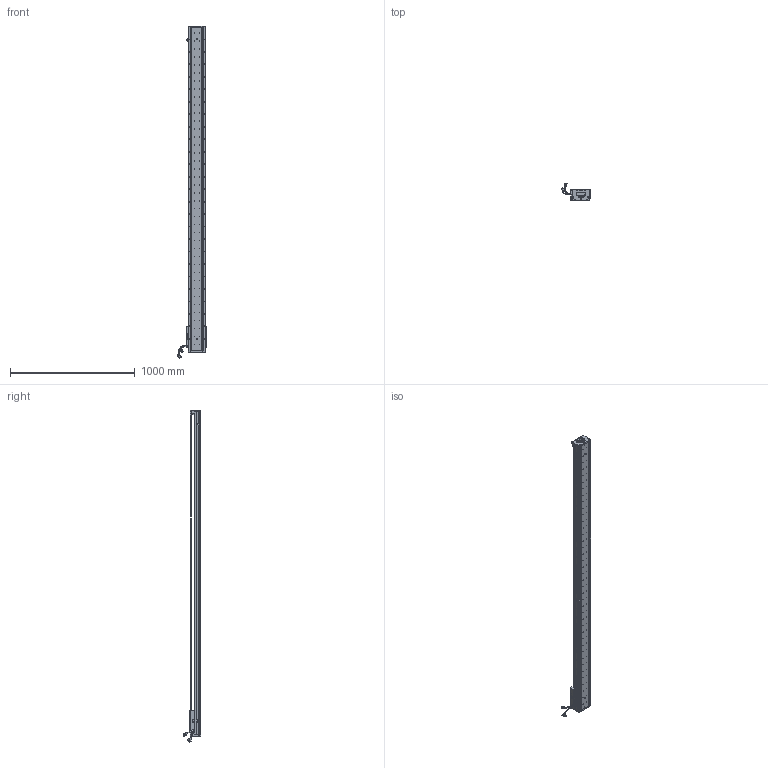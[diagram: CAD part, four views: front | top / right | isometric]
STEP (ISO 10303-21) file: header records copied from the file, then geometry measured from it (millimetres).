
FILE_DESCRIPTION (( 'STEP AP203' ), '1' );
FILE_NAME ('Z2-RY140D-1-L500-B-K.SLDASM_2350.step', '2021-05-17T07:49:25', ( '盈信电脑' ), ( '东莞市道滘镇水果街19号' ), 'SwSTEP 2.0', 'SolidWorks 2016', '' );
FILE_SCHEMA (( 'CONFIG_CONTROL_DESIGN' ));
Length unit declared in the file: millimetre
Products named in the file (36): COVER; Z2-RY140-L500詩湍100mm遵_2350; SCREW-M1.6-3; 榋妏寠巭燃_暯_M2_2; 覜茼ん672; 140蚥薯蝶輸; Z2-RY140D-1-L500-B-K.SLDASM_2350; HARNESS; 140-Z-臏賑輸盄裔(21遴); SCREW-M1.6-1; PBU_SHEET; 080黍杅芛假蚾釱21遴; Z-RY140詩湍奻揤裔; Z2-RY140圉猾敕臏賑輸(21遴); SCREW-M1.7-1; Z2-RY140-L500直线电机模组底座_2350; Z-RY140感应器672光电感应片; HOLDER0; SCREW-M1.7; SCALE-Part-2; HARNESS-Part-2; SCREW-M1.6-2; LABEL-Part-1; SCALE; 140雄赽晤鎢ん堤盄; COVER-Part-1; Z-140詩湍傷裔啣; SCALE-Part-1; Z-RY140詩湍狟揤裔; PSLH080_PSLF2; SEAL-Part-1; SCREW-M1.6; HARNESS-Part-1; SEAL; SHIELDPLATE; LABEL
Assembly tree (41 placements, depth 4):
  Z2-RY140D-1-L500-B-K.SLDASM_2350
    Z2-RY140-L500直线电机模组底座_2350
    Z-RY140感应器672光电感应片
    Z2-RY140圉猾敕臏賑輸(21遴)
    覜茼ん672  x3
    Z2-RY140-L500詩湍100mm遵_2350
    PSLH080_PSLF2
      SCALE
        SCALE-Part-1
        SCALE-Part-2
      HARNESS
        HARNESS-Part-1
        HARNESS-Part-2
      LABEL
        LABEL-Part-1
      COVER
        COVER-Part-1
      SEAL
        SEAL-Part-1
      榋妏寠巭燃_暯_M2_2
      SHIELDPLATE
      SCREW-M1.7
      SCREW-M1.7-1
      PBU_SHEET
      SCREW-M1.6
      SCREW-M1.6-1
      SCREW-M1.6-2
      SCREW-M1.6-3
      HOLDER0
    080黍杅芛假蚾釱21遴
    140-Z-臏賑輸盄裔(21遴)
    Z-140詩湍傷裔啣  x2
    Z-RY140詩湍狟揤裔  x2
    Z-RY140詩湍奻揤裔  x2
    140蚥薯蝶輸  x2
    140雄赽晤鎢ん堤盄
Bounding box: 239.79 x 143.77 x 2660.87 mm (x, y, z)
Volume: 8344148.7 mm3; surface area: 2191870.5 mm2
Topology: 36 solids, 36 shells, 4066 faces, 11054 edges, 7001 vertices
Faces by surface type: cylinder 2184, plane 1360, cone 390, torus 79, bspline 53
Entity records: 128942 total; most frequent: CARTESIAN_POINT 36601, ORIENTED_EDGE 19036, DIRECTION 17590, EDGE_CURVE 9518, AXIS2_PLACEMENT_3D 6538, VERTEX_POINT 6169, VECTOR 4514, LINE 4514
